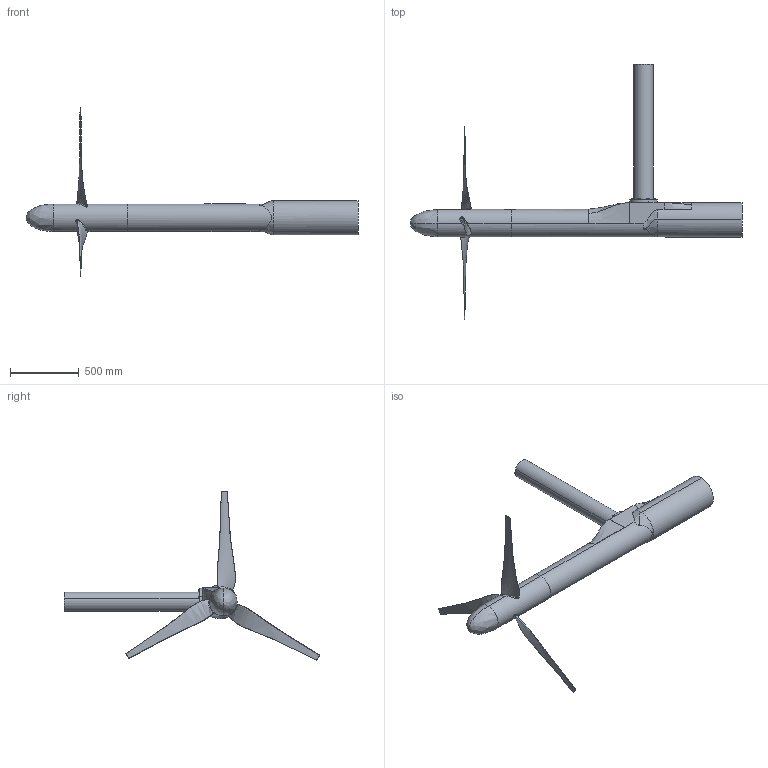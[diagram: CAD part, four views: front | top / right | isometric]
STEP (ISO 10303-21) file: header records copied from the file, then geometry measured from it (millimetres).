
FILE_DESCRIPTION (( 'STEP AP214' ), '1' );
FILE_NAME ('turbine assembly.STEP', '2022-07-04T10:18:36', ( '' ), ( '' ), 'SwSTEP 2.0', 'SolidWorks 2021', '' );
FILE_SCHEMA (( 'AUTOMOTIVE_DESIGN' ));
Length unit declared in the file: millimetre
Products named in the file (6): Tower_assem Part; Nacelle Part; Rotor Part; turbine assembly; plain washer normal grade a_iso_Washer ISO 7089 - 10; hex screw gradeab_iso_ISO 4017 - M10 x 45-N
Assembly tree (19 placements, depth 2):
  turbine assembly
    Rotor Part
    Nacelle Part
    Tower_assem Part
    plain washer normal grade a_iso_Washer ISO 7089 - 10  x8
    hex screw gradeab_iso_ISO 4017 - M10 x 45-N  x8
Bounding box: 2412.86 x 1853.8 x 1224.74 mm (x, y, z)
Volume: 96419241.6 mm3; surface area: 3078883.4 mm2
Topology: 20 solids, 20 shells, 404 faces, 890 edges, 530 vertices
Faces by surface type: plane 154, cylinder 106, cone 66, bspline 60, torus 18
Entity records: 131312 total; most frequent: CARTESIAN_POINT 127116, ORIENTED_EDGE 758, DIRECTION 547, EDGE_CURVE 379, VERTEX_POINT 236, AXIS2_PLACEMENT_3D 235, B_SPLINE_CURVE_WITH_KNOTS 186, EDGE_LOOP 185
